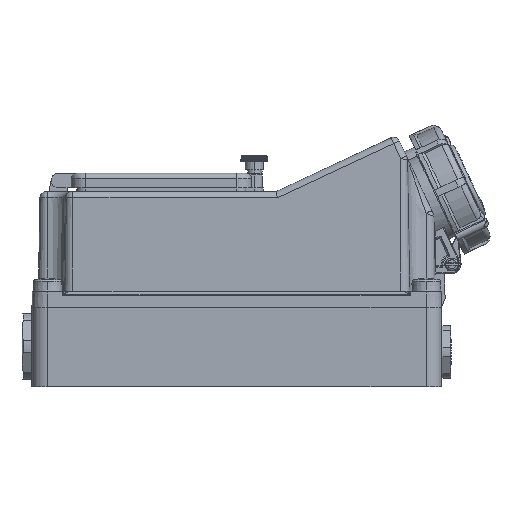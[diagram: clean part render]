
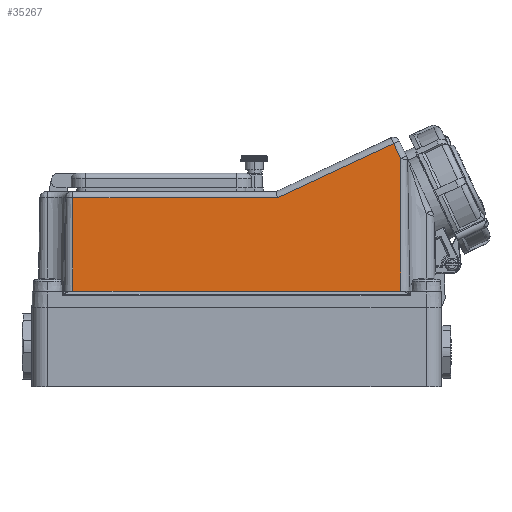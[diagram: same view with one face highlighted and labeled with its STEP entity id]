
A CAD part, left-side view. The second image highlights one B-rep face of the part: STEP entity #35267.
In plain terms, the highlighted planar face has unit normal (-1, 0, 0.018).
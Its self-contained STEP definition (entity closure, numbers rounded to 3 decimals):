
#6060=DIRECTION('',(0.,1.,0.));
#6061=VECTOR('',#6060,112.311);
#6062=CARTESIAN_POINT('',(-54.606,-22.311,
103.711));
#6063=LINE('1981',#6062,#6061);
#6087=DIRECTION('',(0.017,0.,1.));
#6088=VECTOR('',#6087,72.736);
#6089=CARTESIAN_POINT('',(-55.5,-90.,52.5));
#6090=LINE('2286',#6089,#6088);
#6091=DIRECTION('',(0.,1.,0.));
#6092=VECTOR('',#6091,180.);
#6093=CARTESIAN_POINT('',(-55.5,-90.,52.5));
#6094=LINE('1976',#6093,#6092);
#6095=DIRECTION('',(-0.017,0.,-1.));
#6096=VECTOR('',#6095,51.219);
#6097=CARTESIAN_POINT('',(-54.606,90.,103.711));
#6098=LINE('2010',#6097,#6096);
#6099=DIRECTION('',(-0.007,0.906,-0.423));
#6100=VECTOR('',#6099,70.441);
#6101=CARTESIAN_POINT('',(-54.086,-86.151,
133.48));
#6102=LINE('2003',#6101,#6100);
#9709=CARTESIAN_POINT('',(-54.231,-90.,
125.225));
#9733=DIRECTION('',(0.016,0.423,0.906));
#9734=VECTOR('',#9733,9.11);
#9735=CARTESIAN_POINT('',(-54.231,-90.,
125.225));
#9736=LINE('2280',#9735,#9734);
#24616=CARTESIAN_POINT('',(-55.5,-90.,52.5));
#24617=CARTESIAN_POINT('',(-55.5,90.,52.5));
#24618=VERTEX_POINT('',#24616);
#24619=VERTEX_POINT('',#24617);
#24624=CARTESIAN_POINT('',(-54.606,-22.311,
103.711));
#24625=CARTESIAN_POINT('',(-54.606,90.,
103.711));
#24626=VERTEX_POINT('',#24624);
#24627=VERTEX_POINT('',#24625);
#24674=CARTESIAN_POINT('',(-54.086,-86.151,
133.48));
#24675=VERTEX_POINT('',#24674);
#24957=VERTEX_POINT('',#9709);
#35249=CARTESIAN_POINT('',(-55.5,-91.2,52.5));
#35250=DIRECTION('',(1.,0.,-0.017));
#35251=DIRECTION('',(0.,1.,0.));
#35252=AXIS2_PLACEMENT_3D('',#35249,#35250,#35251);
#35253=PLANE('234',#35252);
#35254=ORIENTED_EDGE('1981',*,*,#35232,.F.);
#35256=ORIENTED_EDGE('2003',*,*,#35255,.F.);
#35258=ORIENTED_EDGE('2280',*,*,#35257,.F.);
#35260=ORIENTED_EDGE('2286',*,*,#35259,.F.);
#35262=ORIENTED_EDGE('1976',*,*,#35261,.T.);
#35264=ORIENTED_EDGE('2010',*,*,#35263,.F.);
#35265=EDGE_LOOP('234',(#35254,#35256,#35258,#35260,#35262,#35264));
#35266=FACE_OUTER_BOUND('234',#35265,.F.);
#35232=EDGE_CURVE('1981',#24626,#24627,#6063,.T.);
#35255=EDGE_CURVE('2003',#24675,#24626,#6102,.T.);
#35257=EDGE_CURVE('2280',#24957,#24675,#9736,.T.);
#35259=EDGE_CURVE('2286',#24618,#24957,#6090,.T.);
#35261=EDGE_CURVE('1976',#24618,#24619,#6094,.T.);
#35263=EDGE_CURVE('2010',#24627,#24619,#6098,.T.);
#35267=ADVANCED_FACE('234',(#35266),#35253,.F.);
